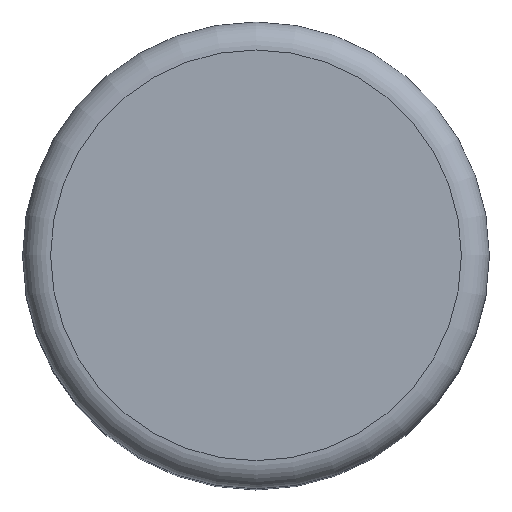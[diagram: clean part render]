
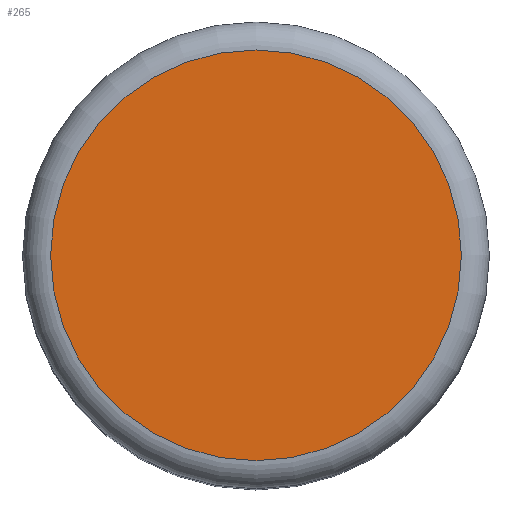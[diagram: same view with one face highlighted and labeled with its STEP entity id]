
A CAD part, top view. The second image highlights one B-rep face of the part: STEP entity #265.
In plain terms, the highlighted planar face has unit normal (0, 0, 1).
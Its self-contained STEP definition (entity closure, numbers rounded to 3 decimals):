
#84 = TOROIDAL_SURFACE('',#85,8.8,1.2);
#85 = AXIS2_PLACEMENT_3D('',#86,#87,#88);
#86 = CARTESIAN_POINT('',(0.,0.,30.8));
#87 = DIRECTION('',(0.,0.,1.));
#88 = DIRECTION('',(1.,0.,-0.));
#181 = VERTEX_POINT('',#182);
#182 = CARTESIAN_POINT('',(8.8,0.,32.));
#204 = EDGE_CURVE('',#181,#181,#205,.T.);
#205 = SURFACE_CURVE('',#206,(#211,#218),.PCURVE_S1.);
#206 = CIRCLE('',#207,8.8);
#207 = AXIS2_PLACEMENT_3D('',#208,#209,#210);
#208 = CARTESIAN_POINT('',(0.,0.,32.));
#209 = DIRECTION('',(0.,0.,1.));
#210 = DIRECTION('',(1.,0.,-0.));
#211 = PCURVE('',#84,#212);
#212 = DEFINITIONAL_REPRESENTATION('',(#213),#217);
#213 = LINE('',#214,#215);
#214 = CARTESIAN_POINT('',(0.,1.571));
#215 = VECTOR('',#216,1.);
#216 = DIRECTION('',(1.,0.));
#217 = ( GEOMETRIC_REPRESENTATION_CONTEXT(2) 
PARAMETRIC_REPRESENTATION_CONTEXT() REPRESENTATION_CONTEXT('2D SPACE',''
  ) );
#218 = PCURVE('',#219,#224);
#219 = PLANE('',#220);
#220 = AXIS2_PLACEMENT_3D('',#221,#222,#223);
#221 = CARTESIAN_POINT('',(0.,0.,32.));
#222 = DIRECTION('',(0.,0.,1.));
#223 = DIRECTION('',(1.,0.,-0.));
#224 = DEFINITIONAL_REPRESENTATION('',(#225),#229);
#225 = CIRCLE('',#226,8.8);
#226 = AXIS2_PLACEMENT_2D('',#227,#228);
#227 = CARTESIAN_POINT('',(0.,0.));
#228 = DIRECTION('',(1.,0.));
#229 = ( GEOMETRIC_REPRESENTATION_CONTEXT(2) 
PARAMETRIC_REPRESENTATION_CONTEXT() REPRESENTATION_CONTEXT('2D SPACE',''
  ) );
#265 = ADVANCED_FACE('',(#266),#219,.T.);
#266 = FACE_BOUND('',#267,.T.);
#267 = EDGE_LOOP('',(#268));
#268 = ORIENTED_EDGE('',*,*,#204,.T.);
